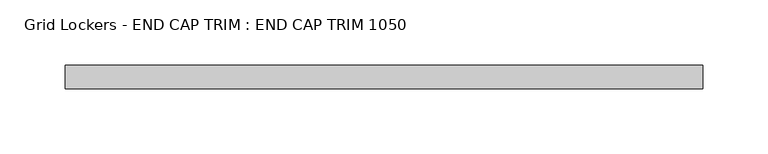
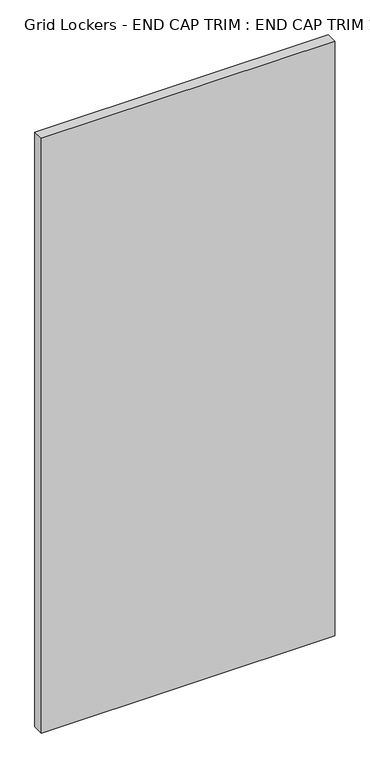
"""IFC4 building model written with IfcOpenShell, lengths in millimetres: furniture geometry, Grid Lockers - END CAP TRIM : END CAP TRIM 1050."""

from ifc_helpers import new_model, si_unit, origin, origin_with_axes, place, context, project, spatial, polyline, outline, extrude, source, transform, mapped, element, save


def grid_lockers_end_cap_trim_end_cap_trim_1050_2acc9c86(model_context):
    return source(origin(), model_context, "Body", "SweptSolid", [
        extrude(outline(polyline([(490.0, -18.0), (0.0, -18.0), (0.0, 0.0), (490.0, 0.0), (490.0, -18.0)])), origin_with_axes(), (0.0, 0.0, 1.0), 1050.0),
    ])


if __name__ == "__main__":
    model = new_model("IFC4")
    model_context = context("Model", 3, world=origin())
    ifc_project = project(units=[si_unit("LENGTHUNIT", "METRE", prefix="MILLI")], contexts=[model_context])
    site = spatial("IfcSite", under=ifc_project)
    building = spatial("IfcBuilding", under=site)
    placement = place(None, origin())
    grid_lockers_end_cap_trim_end_cap_trim_1050_shape = grid_lockers_end_cap_trim_end_cap_trim_1050_2acc9c86(model_context)
    element("IfcFurniture", 1, ObjectType="Grid Lockers - END CAP TRIM : END CAP TRIM 1050", at=placement, inside=building, context=model_context, shape_type="MappedRepresentation", body=[
        mapped(grid_lockers_end_cap_trim_end_cap_trim_1050_shape, transform((0.0, 0.0, 0.0), x_axis=(1.0, 0.0, 0.0), y_axis=(0.0, 1.0, 0.0), z_axis=(0.0, 0.0, 1.0))),
    ])
    save(model, "model.ifc")
